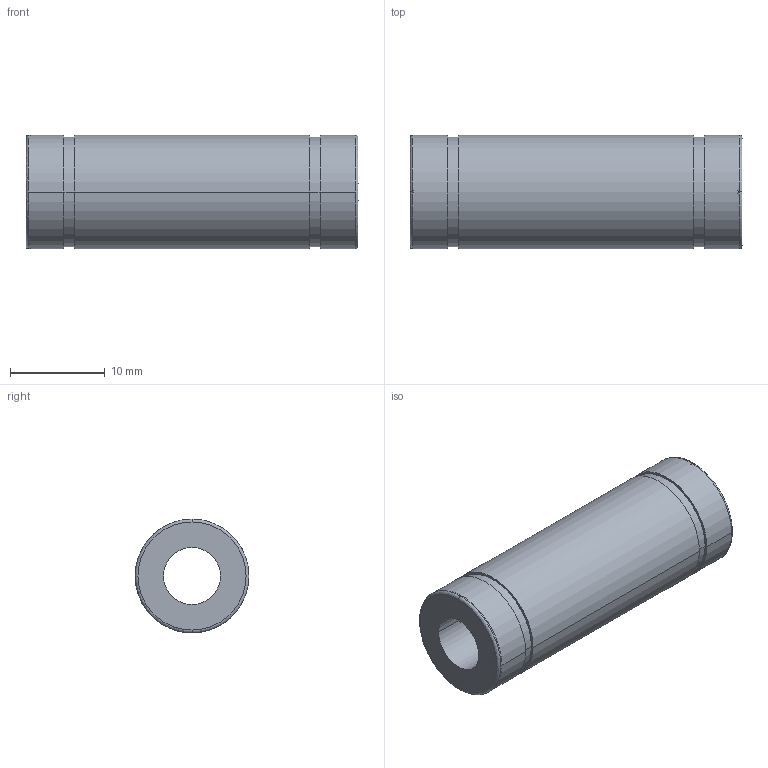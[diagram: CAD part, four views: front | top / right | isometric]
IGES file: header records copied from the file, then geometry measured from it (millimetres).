
Start section: 3D InterOp IGES (Version 21 0 1), Spatial Corp. Copyright (c) 1999-2007.
Global section: file name: NL-6V.igs; native system: Spatial Corp.; preprocessor: 3D InterOp GENERIC/IGES 3.0; author: Noname; organization: Noname; date: 20220311.145741; units: millimetre
Bounding box: 35 x 12 x 12 mm (x, y, z)
Surface area: 2372.8 mm2 (no closed solid volume)
Topology: 0 solids, 0 shells, 22 faces, 108 edges, 104 vertices
Faces by surface type: revolution 16, extrusion 6
